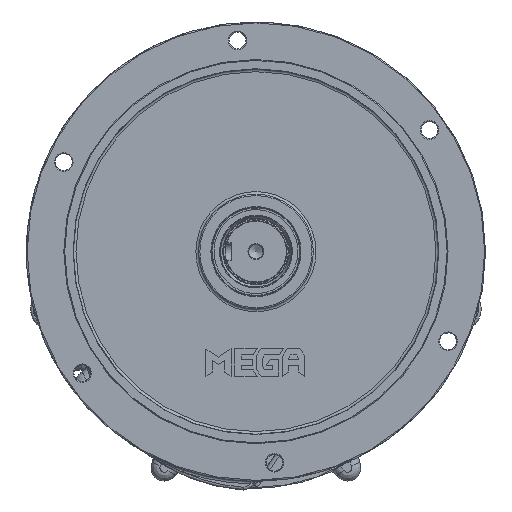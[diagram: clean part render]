
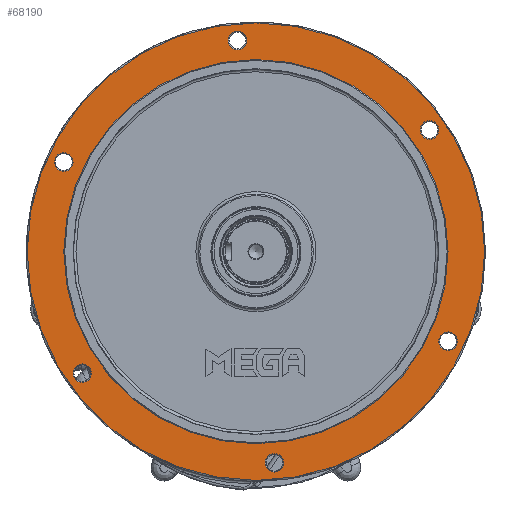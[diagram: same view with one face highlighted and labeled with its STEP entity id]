
A CAD part, front view. The second image highlights one B-rep face of the part: STEP entity #68190.
In plain terms, the highlighted planar face has unit normal (0, -1, 0).
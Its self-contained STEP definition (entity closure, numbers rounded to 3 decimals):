
#4383=FACE_BOUND('',#11467,.T.);
#4384=FACE_BOUND('',#11468,.T.);
#4385=FACE_BOUND('',#11469,.T.);
#4386=FACE_BOUND('',#11470,.T.);
#4387=FACE_BOUND('',#11471,.T.);
#4388=FACE_BOUND('',#11472,.T.);
#4389=FACE_BOUND('',#11473,.T.);
#4996=PLANE('',#73151);
#7377=FACE_OUTER_BOUND('',#11466,.T.);
#11466=EDGE_LOOP('',(#47998));
#11467=EDGE_LOOP('',(#47999));
#11468=EDGE_LOOP('',(#48000));
#11469=EDGE_LOOP('',(#48001));
#11470=EDGE_LOOP('',(#48002));
#11471=EDGE_LOOP('',(#48003));
#11472=EDGE_LOOP('',(#48004));
#11473=EDGE_LOOP('',(#48005));
#24008=CIRCLE('',#72920,259.);
#24011=CIRCLE('',#72925,217.5);
#24113=CIRCLE('',#73118,10.5);
#24120=CIRCLE('',#73132,10.5);
#24123=CIRCLE('',#73137,10.5);
#24126=CIRCLE('',#73142,10.5);
#24129=CIRCLE('',#73147,10.5);
#24132=CIRCLE('',#73152,10.5);
#27793=VERTEX_POINT('',#114747);
#27796=VERTEX_POINT('',#114756);
#27966=VERTEX_POINT('',#116798);
#27975=VERTEX_POINT('',#116922);
#27978=VERTEX_POINT('',#116932);
#27981=VERTEX_POINT('',#116942);
#27984=VERTEX_POINT('',#116952);
#27987=VERTEX_POINT('',#116962);
#35033=EDGE_CURVE('',#27793,#27793,#24008,.T.);
#35038=EDGE_CURVE('',#27796,#27796,#24011,.T.);
#35326=EDGE_CURVE('',#27966,#27966,#24113,.T.);
#35344=EDGE_CURVE('',#27975,#27975,#24120,.T.);
#35349=EDGE_CURVE('',#27978,#27978,#24123,.T.);
#35354=EDGE_CURVE('',#27981,#27981,#24126,.T.);
#35359=EDGE_CURVE('',#27984,#27984,#24129,.T.);
#35364=EDGE_CURVE('',#27987,#27987,#24132,.T.);
#47998=ORIENTED_EDGE('',*,*,#35033,.F.);
#47999=ORIENTED_EDGE('',*,*,#35359,.F.);
#48000=ORIENTED_EDGE('',*,*,#35349,.F.);
#48001=ORIENTED_EDGE('',*,*,#35326,.F.);
#48002=ORIENTED_EDGE('',*,*,#35038,.F.);
#48003=ORIENTED_EDGE('',*,*,#35344,.F.);
#48004=ORIENTED_EDGE('',*,*,#35354,.F.);
#48005=ORIENTED_EDGE('',*,*,#35364,.F.);
#68190=ADVANCED_FACE('',(#7377,#4383,#4384,#4385,#4386,#4387,#4388,#4389),
#4996,.T.);
#72920=AXIS2_PLACEMENT_3D('',#114748,#81685,#81686);
#72925=AXIS2_PLACEMENT_3D('',#114758,#81697,#81698);
#73118=AXIS2_PLACEMENT_3D('',#116799,#82197,#82198);
#73132=AXIS2_PLACEMENT_3D('',#116923,#82229,#82230);
#73137=AXIS2_PLACEMENT_3D('',#116933,#82241,#82242);
#73142=AXIS2_PLACEMENT_3D('',#116943,#82253,#82254);
#73147=AXIS2_PLACEMENT_3D('',#116953,#82265,#82266);
#73151=AXIS2_PLACEMENT_3D('',#116961,#82275,#82276);
#73152=AXIS2_PLACEMENT_3D('',#116963,#82277,#82278);
#81685=DIRECTION('center_axis',(0.,1.,0.));
#81686=DIRECTION('ref_axis',(-1.,0.,0.));
#81697=DIRECTION('center_axis',(0.,-1.,0.));
#81698=DIRECTION('ref_axis',(-1.,0.,0.));
#82197=DIRECTION('center_axis',(0.,-1.,0.));
#82198=DIRECTION('ref_axis',(-1.,0.,0.));
#82229=DIRECTION('center_axis',(0.,-1.,0.));
#82230=DIRECTION('ref_axis',(-0.5,0.,0.866));
#82241=DIRECTION('center_axis',(0.,-1.,0.));
#82242=DIRECTION('ref_axis',(0.5,0.,0.866));
#82253=DIRECTION('center_axis',(0.,-1.,0.));
#82254=DIRECTION('ref_axis',(1.,0.,0.));
#82265=DIRECTION('center_axis',(0.,-1.,0.));
#82266=DIRECTION('ref_axis',(0.5,0.,-0.866));
#82275=DIRECTION('center_axis',(0.,-1.,0.));
#82276=DIRECTION('ref_axis',(0.,0.,-1.));
#82277=DIRECTION('center_axis',(0.,-1.,0.));
#82278=DIRECTION('ref_axis',(-0.5,0.,-0.866));
#114747=CARTESIAN_POINT('',(259.228,-235.728,63.25));
#114748=CARTESIAN_POINT('Origin',(0.228,-235.728,63.25));
#114756=CARTESIAN_POINT('',(217.728,-235.728,63.25));
#114758=CARTESIAN_POINT('Origin',(0.228,-235.728,63.25));
#116798=CARTESIAN_POINT('',(-10.189,-235.728,302.337));
#116799=CARTESIAN_POINT('Origin',(-20.689,-235.728,302.337));
#116922=CARTESIAN_POINT('',(202.075,-235.728,191.815));
#116923=CARTESIAN_POINT('Origin',(196.825,-235.728,200.908));
#116932=CARTESIAN_POINT('',(212.492,-235.728,-47.272));
#116933=CARTESIAN_POINT('Origin',(217.742,-235.728,-38.178));
#116942=CARTESIAN_POINT('',(10.646,-235.728,-175.837));
#116943=CARTESIAN_POINT('Origin',(21.146,-235.728,-175.837));
#116952=CARTESIAN_POINT('',(-201.618,-235.728,-65.315));
#116953=CARTESIAN_POINT('Origin',(-196.368,-235.728,-74.408));
#116961=CARTESIAN_POINT('Origin',(0.228,-235.728,63.252));
#116962=CARTESIAN_POINT('',(-212.035,-235.728,173.772));
#116963=CARTESIAN_POINT('Origin',(-217.285,-235.728,164.678));
